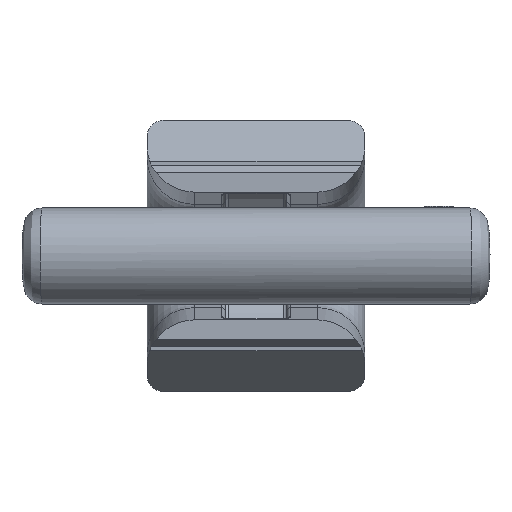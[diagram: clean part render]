
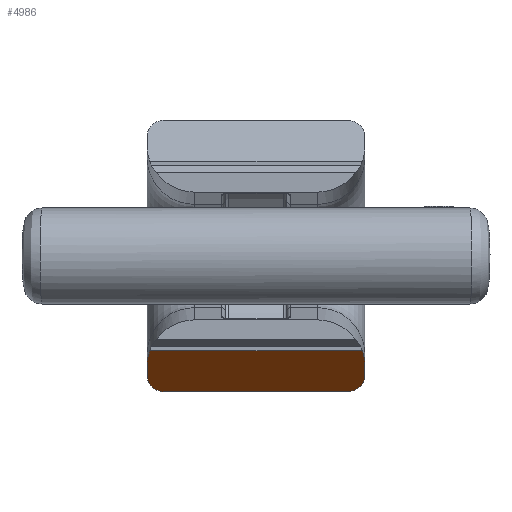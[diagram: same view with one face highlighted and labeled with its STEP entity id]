
A CAD part, front view. The second image highlights one B-rep face of the part: STEP entity #4986.
In plain terms, the highlighted planar face has unit normal (0, -0.643, -0.766).
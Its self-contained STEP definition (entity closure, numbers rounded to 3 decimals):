
#6=DIRECTION('',(0.,-0.766,0.643));
#7=VECTOR('',#6,5.783);
#8=CARTESIAN_POINT('',(-30.,11.5,-33.305));
#9=LINE('',#8,#7);
#24=CARTESIAN_POINT('',(-30.,11.5,-33.305));
#25=CARTESIAN_POINT('',(-30.,12.236,-33.922));
#26=CARTESIAN_POINT('',(-29.704,13.48,-34.966));
#27=CARTESIAN_POINT('',(-28.749,14.957,-36.205));
#28=CARTESIAN_POINT('',(-27.557,15.883,-36.983));
#29=CARTESIAN_POINT('',(-26.277,16.374,-37.395));
#30=CARTESIAN_POINT('',(-25.48,16.5,-37.5));
#31=CARTESIAN_POINT('',(-25.,16.5,-37.5));
#50=CARTESIAN_POINT('',(25.,16.5,-37.5));
#51=CARTESIAN_POINT('',(25.48,16.5,-37.5));
#52=CARTESIAN_POINT('',(26.277,16.374,-37.395));
#53=CARTESIAN_POINT('',(27.557,15.883,-36.983));
#54=CARTESIAN_POINT('',(28.749,14.957,-36.205));
#55=CARTESIAN_POINT('',(29.704,13.48,-34.966));
#56=CARTESIAN_POINT('',(30.,12.236,-33.922));
#57=CARTESIAN_POINT('',(30.,11.5,-33.305));
#63=DIRECTION('',(0.,-0.766,0.643));
#64=VECTOR('',#63,5.783);
#65=CARTESIAN_POINT('',(30.,11.5,-33.305));
#66=LINE('',#65,#64);
#90=CARTESIAN_POINT('',(30.,7.07,-29.587));
#91=CARTESIAN_POINT('',(30.,5.692,-28.431));
#92=CARTESIAN_POINT('',(29.787,4.335,-27.293));
#93=CARTESIAN_POINT('',(29.347,3.,-26.172));
#664=DIRECTION('',(1.,0.,0.));
#665=VECTOR('',#664,50.);
#666=CARTESIAN_POINT('',(-25.,16.5,-37.5));
#667=LINE('',#666,#665);
#4119=CARTESIAN_POINT('',(-29.347,3.,-26.172));
#4120=CARTESIAN_POINT('',(-29.787,4.335,
-27.293));
#4121=CARTESIAN_POINT('',(-30.,5.692,-28.431));
#4122=CARTESIAN_POINT('',(-30.,7.07,-29.587));
#4136=DIRECTION('',(-1.,0.,0.));
#4137=VECTOR('',#4136,58.693);
#4138=CARTESIAN_POINT('',(29.347,3.,-26.172));
#4139=LINE('',#4138,#4137);
#4253=CARTESIAN_POINT('',(30.,11.5,-33.305));
#4255=VERTEX_POINT('',#4253);
#4257=CARTESIAN_POINT('',(25.,16.5,-37.5));
#4259=VERTEX_POINT('',#4257);
#4262=CARTESIAN_POINT('',(-30.,11.5,-33.305));
#4264=VERTEX_POINT('',#4262);
#4266=CARTESIAN_POINT('',(-25.,16.5,-37.5));
#4268=VERTEX_POINT('',#4266);
#4434=CARTESIAN_POINT('',(30.,7.07,-29.587));
#4436=VERTEX_POINT('',#4434);
#4437=CARTESIAN_POINT('',(-30.,7.07,-29.587));
#4439=VERTEX_POINT('',#4437);
#4820=VERTEX_POINT('',#93);
#4821=VERTEX_POINT('',#4119);
#4965=CARTESIAN_POINT('',(36.,16.5,-37.5));
#4966=DIRECTION('',(0.,0.643,0.766));
#4967=DIRECTION('',(0.,-0.766,0.643));
#4968=AXIS2_PLACEMENT_3D('',#4965,#4966,#4967);
#4969=PLANE('',#4968);
#4971=ORIENTED_EDGE('',*,*,#4970,.F.);
#4973=ORIENTED_EDGE('',*,*,#4972,.F.);
#4974=ORIENTED_EDGE('',*,*,#4957,.F.);
#4975=ORIENTED_EDGE('',*,*,#4929,.T.);
#4977=ORIENTED_EDGE('',*,*,#4976,.F.);
#4979=ORIENTED_EDGE('',*,*,#4978,.F.);
#4981=ORIENTED_EDGE('',*,*,#4980,.F.);
#4983=ORIENTED_EDGE('',*,*,#4982,.F.);
#4984=EDGE_LOOP('',(#4971,#4973,#4974,#4975,#4977,#4979,#4981,#4983));
#4985=FACE_OUTER_BOUND('',#4984,.F.);
#4986=ADVANCED_FACE('',(#4985),#4969,.F.);
#32=B_SPLINE_CURVE_WITH_KNOTS('',3,(#24,#25,#26,#27,#28,#29,#30,#31),
.UNSPECIFIED.,.F.,.F.,(4,1,1,1,1,4),(0.,0.25,0.5,0.75,0.875,1.),
.UNSPECIFIED.);
#58=B_SPLINE_CURVE_WITH_KNOTS('',3,(#50,#51,#52,#53,#54,#55,#56,#57),
.UNSPECIFIED.,.F.,.F.,(4,1,1,1,1,4),(0.,0.125,0.25,0.5,0.75,1.),
.UNSPECIFIED.);
#94=B_SPLINE_CURVE_WITH_KNOTS('',3,(#90,#91,#92,#93),.UNSPECIFIED.,.F.,.F.,(4,
4),(0.,1.),.UNSPECIFIED.);
#4123=B_SPLINE_CURVE_WITH_KNOTS('',3,(#4119,#4120,#4121,#4122),.UNSPECIFIED.,
.F.,.F.,(4,4),(0.,1.),.UNSPECIFIED.);
#4929=EDGE_CURVE('',#4264,#4439,#9,.T.);
#4957=EDGE_CURVE('',#4264,#4268,#32,.T.);
#4970=EDGE_CURVE('',#4259,#4255,#58,.T.);
#4972=EDGE_CURVE('',#4268,#4259,#667,.T.);
#4976=EDGE_CURVE('',#4821,#4439,#4123,.T.);
#4978=EDGE_CURVE('',#4820,#4821,#4139,.T.);
#4980=EDGE_CURVE('',#4436,#4820,#94,.T.);
#4982=EDGE_CURVE('',#4255,#4436,#66,.T.);
